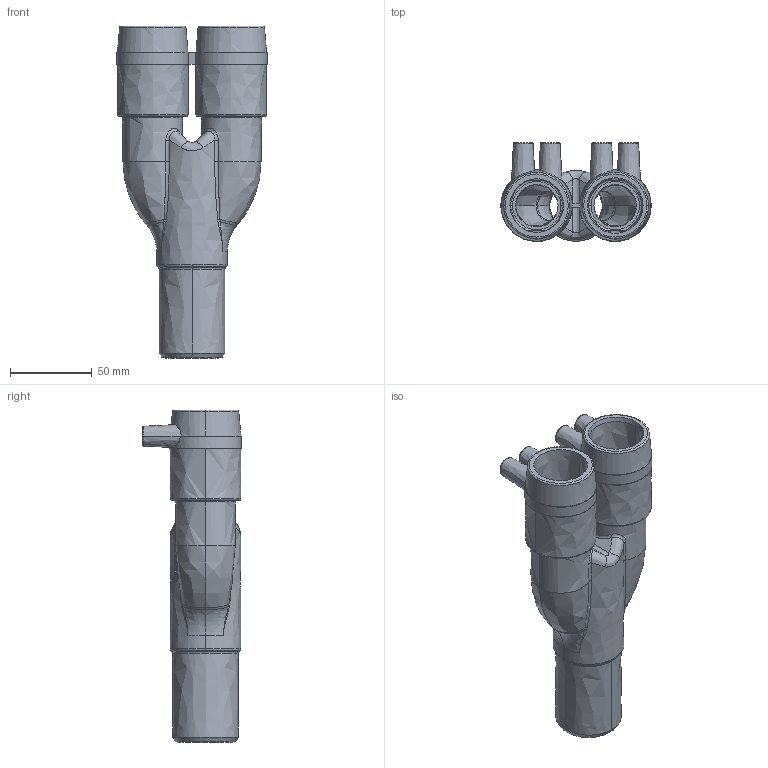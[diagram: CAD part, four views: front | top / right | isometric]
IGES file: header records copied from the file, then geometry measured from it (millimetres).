
Start section:  PTC IGES file: ys_d32-32-40_01.igs
Global section: file name: ys_d32-32-40_01.igs; native system: Pro/ENGINEER by Parametric Technology Corporation; preprocessor: 2011490; author: mtunjic; organization: Unknown; date: 20130816.140633; units: millimetre
Bounding box: 91.8 x 60.4 x 203 mm (x, y, z)
Surface area: 77218.8 mm2 (no closed solid volume)
Topology: 0 solids, 0 shells, 253 faces, 1266 edges, 1266 vertices
Faces by surface type: bspline 253
